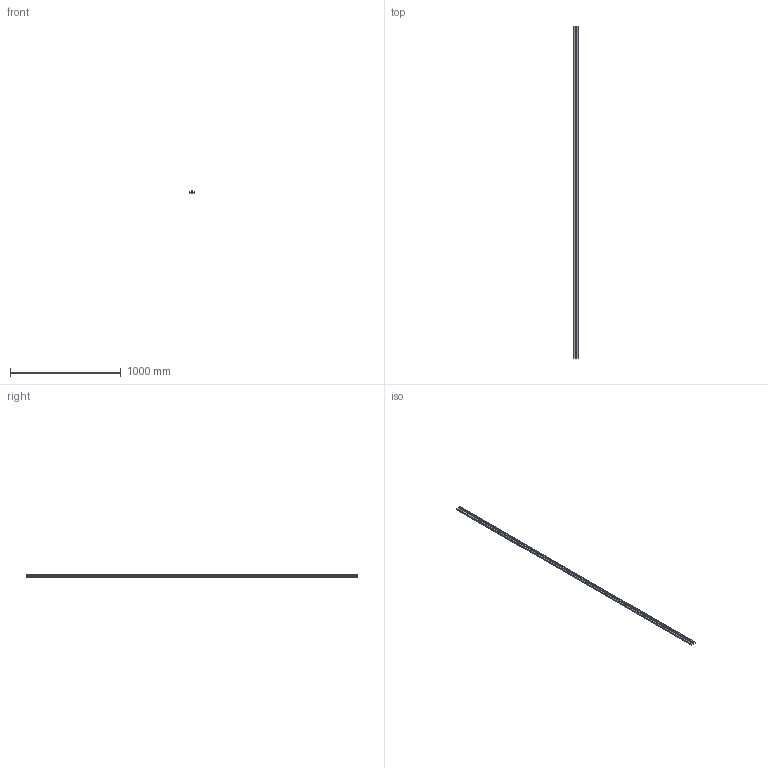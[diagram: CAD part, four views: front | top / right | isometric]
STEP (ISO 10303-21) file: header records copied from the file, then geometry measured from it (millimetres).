
FILE_DESCRIPTION((''),'2;1');
FILE_NAME('GS03218','2002-12-27T',('Lipro doo'),('Lipro d.o.o.'),'PRO/ENGINEER BY PARAMETRIC TECHNOLOGY CORPORATION, 2001150','PRO/ENGINEER BY PARAMETRIC TECHNOLOGY CORPORATION, 2001150','');
FILE_SCHEMA(('CONFIG_CONTROL_DESIGN'));
Length unit declared in the file: millimetre
Products named in the file (1): GS03218
Bounding box: 47 x 3000 x 19 mm (x, y, z)
Volume: 1073550 mm3; surface area: 489414.2 mm2
Topology: 1 solids, 1 shells, 30 faces, 84 edges, 56 vertices
Faces by surface type: plane 30
Entity records: 986 total; most frequent: CARTESIAN_POINT 170, ORIENTED_EDGE 168, DIRECTION 144, VECTOR 84, LINE 84, EDGE_CURVE 84, VERTEX_POINT 56, AXIS2_PLACEMENT_3D 30
